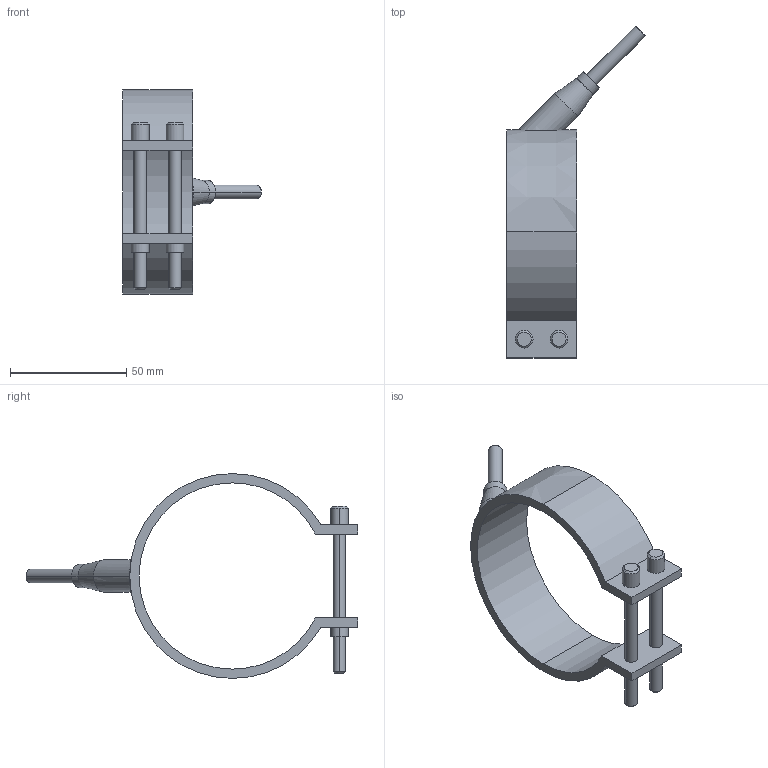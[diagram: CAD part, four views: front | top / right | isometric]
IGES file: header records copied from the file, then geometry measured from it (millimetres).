
Start section: START RECORD GO HERE.
Global section: file name: 29080030.igs; native system: DASSAULT SYSTEMES CATIA V5 R20 - www.3ds.com; preprocessor: CATIA Version 5 Release 20 ; author: Utente; organization: NB04-ASUS; date: 20210329.201101; units: millimetre
Bounding box: 59.55 x 142.55 x 88 mm (x, y, z)
Surface area: 21514.8 mm2 (no closed solid volume)
Topology: 0 solids, 0 shells, 54 faces, 246 edges, 246 vertices
Faces by surface type: revolution 38, plane 16
